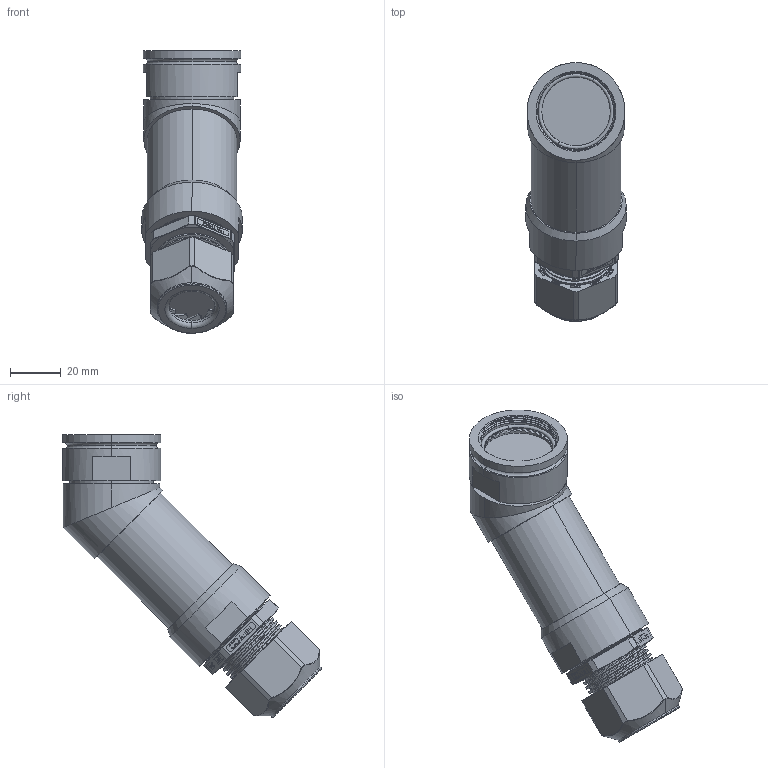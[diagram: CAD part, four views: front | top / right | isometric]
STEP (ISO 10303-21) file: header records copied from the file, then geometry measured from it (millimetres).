
FILE_DESCRIPTION (( 'STEP AP214' ), '1' );
FILE_NAME ('Q38SHELL-45X-21-XXXX-GL.STEP', '2025-09-26T14:32:05', ( '' ), ( '' ), 'SwSTEP 2.0', 'SolidWorks 2024', '' );
FILE_SCHEMA (( 'AUTOMOTIVE_DESIGN' ));
Length unit declared in the file: millimetre
Products named in the file (1): Q38SHELL-45X-21-XXXX-GL
Bounding box: 39.62 x 101.97 x 111.47 mm (x, y, z)
Surface area: 37376.5 mm2 (no closed solid volume)
Topology: 0 solids, 8 shells, 1361 faces, 3658 edges, 2366 vertices
Faces by surface type: plane 723, cylinder 240, bspline 140, torus 121, cone 117, sphere 20
Entity records: 63514 total; most frequent: CARTESIAN_POINT 36235, ORIENTED_EDGE 7267, EDGE_CURVE 3658, DIRECTION 3270, B_SPLINE_CURVE_WITH_KNOTS 2833, VERTEX_POINT 2366, AXIS2_PLACEMENT_3D 1496, EDGE_LOOP 1430
